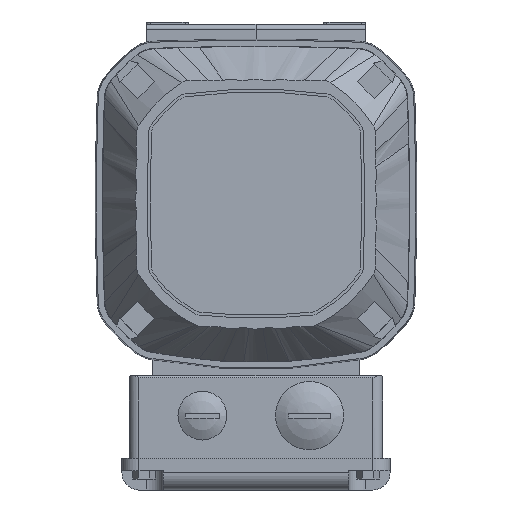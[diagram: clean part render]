
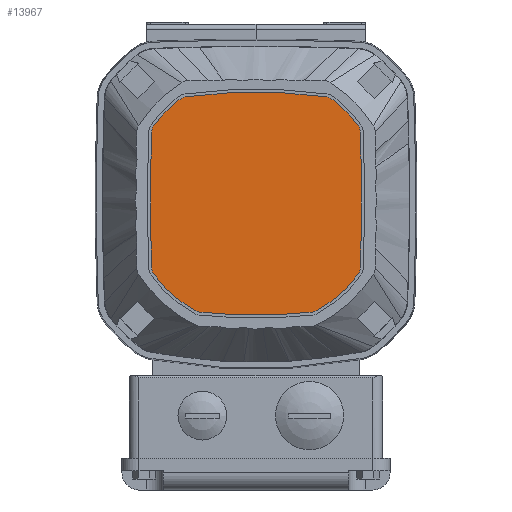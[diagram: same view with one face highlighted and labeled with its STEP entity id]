
A CAD part, left-side view. The second image highlights one B-rep face of the part: STEP entity #13967.
In plain terms, the highlighted planar face has unit normal (-1, 0, 0).
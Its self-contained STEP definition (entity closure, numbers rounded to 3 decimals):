
#857=PLANE('',#15417);
#1583=FACE_OUTER_BOUND('',#2373,.T.);
#2373=EDGE_LOOP('',(#12877,#12878,#12879,#12880,#12881,#12882,#12883,#12884,
#12885,#12886,#12887,#12888,#12889,#12890,#12891,#12892));
#2466=CIRCLE('',#14094,212.8);
#2469=CIRCLE('',#14098,209.8);
#3139=CIRCLE('',#15390,4.8);
#3140=CIRCLE('',#15392,51.8);
#3141=CIRCLE('',#15394,4.8);
#3142=CIRCLE('',#15396,1047.2);
#3143=CIRCLE('',#15398,4.8);
#3144=CIRCLE('',#15400,51.8);
#3145=CIRCLE('',#15402,4.8);
#3146=CIRCLE('',#15404,4.8);
#3147=CIRCLE('',#15406,51.8);
#3148=CIRCLE('',#15408,4.8);
#3149=CIRCLE('',#15410,1047.2);
#3150=CIRCLE('',#15412,4.8);
#3151=CIRCLE('',#15414,51.8);
#3152=CIRCLE('',#15416,4.8);
#5676=VERTEX_POINT('',#19722);
#5677=VERTEX_POINT('',#19723);
#5682=VERTEX_POINT('',#19734);
#5683=VERTEX_POINT('',#19736);
#6909=VERTEX_POINT('',#25995);
#6910=VERTEX_POINT('',#25999);
#6911=VERTEX_POINT('',#26003);
#6912=VERTEX_POINT('',#26007);
#6913=VERTEX_POINT('',#26011);
#6914=VERTEX_POINT('',#26015);
#6915=VERTEX_POINT('',#26021);
#6916=VERTEX_POINT('',#26025);
#6917=VERTEX_POINT('',#26029);
#6918=VERTEX_POINT('',#26033);
#6919=VERTEX_POINT('',#26037);
#6920=VERTEX_POINT('',#26041);
#7066=EDGE_CURVE('',#5676,#5677,#2466,.T.);
#7072=EDGE_CURVE('',#5682,#5683,#2469,.T.);
#8914=EDGE_CURVE('',#6909,#5676,#3139,.T.);
#8916=EDGE_CURVE('',#6910,#6909,#3140,.T.);
#8918=EDGE_CURVE('',#6911,#6910,#3141,.T.);
#8920=EDGE_CURVE('',#6912,#6911,#3142,.T.);
#8922=EDGE_CURVE('',#6913,#6912,#3143,.T.);
#8924=EDGE_CURVE('',#6914,#6913,#3144,.T.);
#8925=EDGE_CURVE('',#5683,#6914,#3145,.T.);
#8927=EDGE_CURVE('',#6915,#5682,#3146,.T.);
#8929=EDGE_CURVE('',#6916,#6915,#3147,.T.);
#8931=EDGE_CURVE('',#6917,#6916,#3148,.T.);
#8933=EDGE_CURVE('',#6918,#6917,#3149,.T.);
#8935=EDGE_CURVE('',#6919,#6918,#3150,.T.);
#8937=EDGE_CURVE('',#6920,#6919,#3151,.T.);
#8938=EDGE_CURVE('',#5677,#6920,#3152,.T.);
#12877=ORIENTED_EDGE('',*,*,#8937,.F.);
#12878=ORIENTED_EDGE('',*,*,#8938,.F.);
#12879=ORIENTED_EDGE('',*,*,#7066,.F.);
#12880=ORIENTED_EDGE('',*,*,#8914,.F.);
#12881=ORIENTED_EDGE('',*,*,#8916,.F.);
#12882=ORIENTED_EDGE('',*,*,#8918,.F.);
#12883=ORIENTED_EDGE('',*,*,#8920,.F.);
#12884=ORIENTED_EDGE('',*,*,#8922,.F.);
#12885=ORIENTED_EDGE('',*,*,#8924,.F.);
#12886=ORIENTED_EDGE('',*,*,#8925,.F.);
#12887=ORIENTED_EDGE('',*,*,#7072,.F.);
#12888=ORIENTED_EDGE('',*,*,#8927,.F.);
#12889=ORIENTED_EDGE('',*,*,#8929,.F.);
#12890=ORIENTED_EDGE('',*,*,#8931,.F.);
#12891=ORIENTED_EDGE('',*,*,#8933,.F.);
#12892=ORIENTED_EDGE('',*,*,#8935,.F.);
#13967=ADVANCED_FACE('',(#1583),#857,.T.);
#14094=AXIS2_PLACEMENT_3D('',#19724,#15600,#15601);
#14098=AXIS2_PLACEMENT_3D('',#19737,#15611,#15612);
#15390=AXIS2_PLACEMENT_3D('',#25997,#19242,#19243);
#15392=AXIS2_PLACEMENT_3D('',#26001,#19247,#19248);
#15394=AXIS2_PLACEMENT_3D('',#26005,#19252,#19253);
#15396=AXIS2_PLACEMENT_3D('',#26009,#19257,#19258);
#15398=AXIS2_PLACEMENT_3D('',#26013,#19262,#19263);
#15400=AXIS2_PLACEMENT_3D('',#26017,#19267,#19268);
#15402=AXIS2_PLACEMENT_3D('',#26019,#19271,#19272);
#15404=AXIS2_PLACEMENT_3D('',#26023,#19276,#19277);
#15406=AXIS2_PLACEMENT_3D('',#26027,#19281,#19282);
#15408=AXIS2_PLACEMENT_3D('',#26031,#19286,#19287);
#15410=AXIS2_PLACEMENT_3D('',#26035,#19291,#19292);
#15412=AXIS2_PLACEMENT_3D('',#26039,#19296,#19297);
#15414=AXIS2_PLACEMENT_3D('',#26043,#19301,#19302);
#15416=AXIS2_PLACEMENT_3D('',#26045,#19305,#19306);
#15417=AXIS2_PLACEMENT_3D('',#26046,#19307,#19308);
#15600=DIRECTION('center_axis',(1.,0.,0.));
#15601=DIRECTION('ref_axis',(0.,0.,
1.));
#15611=DIRECTION('center_axis',(1.,0.,0.));
#15612=DIRECTION('ref_axis',(0.,0.,
1.));
#19242=DIRECTION('center_axis',(1.,0.,0.));
#19243=DIRECTION('ref_axis',(0.,0.,
1.));
#19247=DIRECTION('center_axis',(1.,0.,0.));
#19248=DIRECTION('ref_axis',(0.,0.,
1.));
#19252=DIRECTION('center_axis',(1.,0.,0.));
#19253=DIRECTION('ref_axis',(0.,0.,
1.));
#19257=DIRECTION('center_axis',(1.,0.,0.));
#19258=DIRECTION('ref_axis',(0.,0.,
1.));
#19262=DIRECTION('center_axis',(1.,0.,0.));
#19263=DIRECTION('ref_axis',(0.,0.,
1.));
#19267=DIRECTION('center_axis',(1.,0.,0.));
#19268=DIRECTION('ref_axis',(0.,0.,
1.));
#19271=DIRECTION('center_axis',(1.,0.,0.));
#19272=DIRECTION('ref_axis',(0.,0.,
1.));
#19276=DIRECTION('center_axis',(1.,0.,0.));
#19277=DIRECTION('ref_axis',(0.,0.,
1.));
#19281=DIRECTION('center_axis',(1.,0.,0.));
#19282=DIRECTION('ref_axis',(0.,0.,
1.));
#19286=DIRECTION('center_axis',(1.,0.,0.));
#19287=DIRECTION('ref_axis',(0.,0.,
1.));
#19291=DIRECTION('center_axis',(1.,0.,0.));
#19292=DIRECTION('ref_axis',(0.,0.,
1.));
#19296=DIRECTION('center_axis',(1.,0.,0.));
#19297=DIRECTION('ref_axis',(0.,0.,
1.));
#19301=DIRECTION('center_axis',(1.,0.,0.));
#19302=DIRECTION('ref_axis',(0.,0.,
1.));
#19305=DIRECTION('center_axis',(1.,0.,0.));
#19306=DIRECTION('ref_axis',(0.,0.,
1.));
#19307=DIRECTION('center_axis',(-1.,0.,0.));
#19308=DIRECTION('ref_axis',(0.,-1.,0.));
#19722=CARTESIAN_POINT('',(-283.2,-22.984,-69.055));
#19723=CARTESIAN_POINT('',(-283.2,22.984,-69.055));
#19724=CARTESIAN_POINT('Origin',(-283.2,0.,
142.5));
#19734=CARTESIAN_POINT('',(-283.2,28.942,19.294));
#19736=CARTESIAN_POINT('',(-283.2,-28.942,19.294));
#19737=CARTESIAN_POINT('Origin',(-283.2,0.,
-188.5));
#25995=CARTESIAN_POINT('',(-283.2,-24.76,-68.499));
#25997=CARTESIAN_POINT('Origin',(-283.2,-22.465,-64.283));
#25999=CARTESIAN_POINT('',(-283.2,-41.978,-53.349));
#26001=CARTESIAN_POINT('Origin',(-283.2,0.,-23.));
#26003=CARTESIAN_POINT('',(-283.2,-42.886,-50.664));
#26005=CARTESIAN_POINT('Origin',(-283.2,-38.088,-50.537));
#26007=CARTESIAN_POINT('',(-283.2,-42.886,4.664));
#26009=CARTESIAN_POINT('Origin',(-283.2,1003.948,-23.));
#26011=CARTESIAN_POINT('',(-283.2,-41.978,7.349));
#26013=CARTESIAN_POINT('Origin',(-283.2,-38.088,4.537));
#26015=CARTESIAN_POINT('',(-283.2,-31.168,18.374));
#26017=CARTESIAN_POINT('Origin',(-283.2,0.,-23.));
#26019=CARTESIAN_POINT('Origin',(-283.2,-28.28,14.54));
#26021=CARTESIAN_POINT('',(-283.2,31.168,18.374));
#26023=CARTESIAN_POINT('Origin',(-283.2,28.28,14.54));
#26025=CARTESIAN_POINT('',(-283.2,41.978,7.349));
#26027=CARTESIAN_POINT('Origin',(-283.2,0.,-23.));
#26029=CARTESIAN_POINT('',(-283.2,42.886,4.664));
#26031=CARTESIAN_POINT('Origin',(-283.2,38.088,4.537));
#26033=CARTESIAN_POINT('',(-283.2,42.886,-50.664));
#26035=CARTESIAN_POINT('Origin',(-283.2,-1003.948,-23.));
#26037=CARTESIAN_POINT('',(-283.2,41.978,-53.349));
#26039=CARTESIAN_POINT('Origin',(-283.2,38.088,-50.537));
#26041=CARTESIAN_POINT('',(-283.2,24.76,-68.499));
#26043=CARTESIAN_POINT('Origin',(-283.2,0.,-23.));
#26045=CARTESIAN_POINT('Origin',(-283.2,22.465,-64.283));
#26046=CARTESIAN_POINT('Origin',(-283.2,21.966,-9.09));
